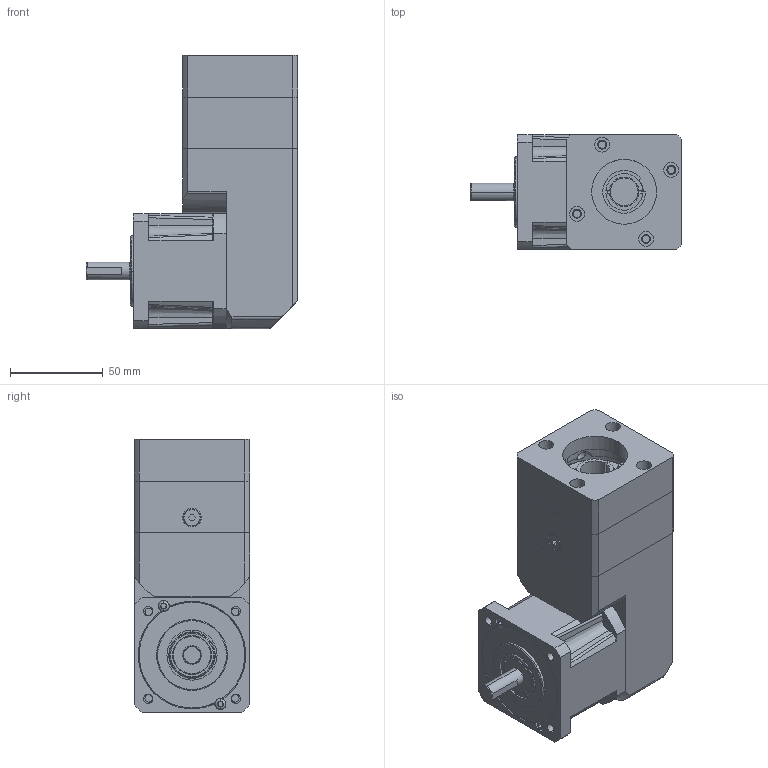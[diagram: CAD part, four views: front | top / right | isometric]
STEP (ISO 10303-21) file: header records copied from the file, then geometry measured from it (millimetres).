
FILE_DESCRIPTION((''),'2;1');
FILE_NAME('GEN_II_RX23_LONG_ADAPT','2008-11-20T',('aza7363'),(''),'PRO/ENGINEER BY PARAMETRIC TECHNOLOGY CORPORATION, 2006300','PRO/ENGINEER BY PARAMETRIC TECHNOLOGY CORPORATION, 2006300','');
FILE_SCHEMA(('CONFIG_CONTROL_DESIGN'));
Length unit declared in the file: millimetre
Products named in the file (1): GEN_II_RX23_LONG_ADAPT
Bounding box: 113.9 x 62 x 147.2 mm (x, y, z)
Surface area: 68629.7 mm2 (no closed solid volume)
Topology: 0 solids, 31 shells, 375 faces, 1076 edges, 736 vertices
Faces by surface type: plane 172, cylinder 125, bspline 29, cone 25, torus 24
Entity records: 13892 total; most frequent: CARTESIAN_POINT 4099, DIRECTION 2065, ORIENTED_EDGE 1866, EDGE_CURVE 1076, AXIS2_PLACEMENT_3D 775, VERTEX_POINT 736, VECTOR 515, LINE 515
